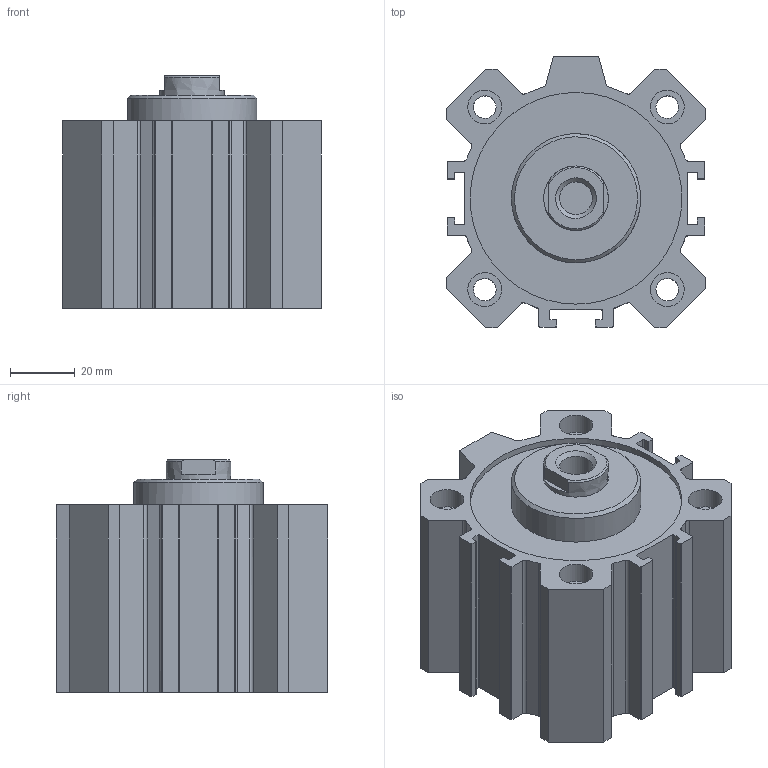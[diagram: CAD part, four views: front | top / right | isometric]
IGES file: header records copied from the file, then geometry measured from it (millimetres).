
Global section: file name: 1511_63_0015; native system: Autodesk Inventor 2014; preprocessor: unknown; author: A. Manieri; date: 20160824.140040; units: millimetre
Bounding box: 80 x 84 x 72 mm (x, y, z)
Volume: 258309.1 mm3; surface area: 67543.7 mm2
Topology: 2 solids, 2 shells, 165 faces, 443 edges, 300 vertices
Faces by surface type: bspline 165
